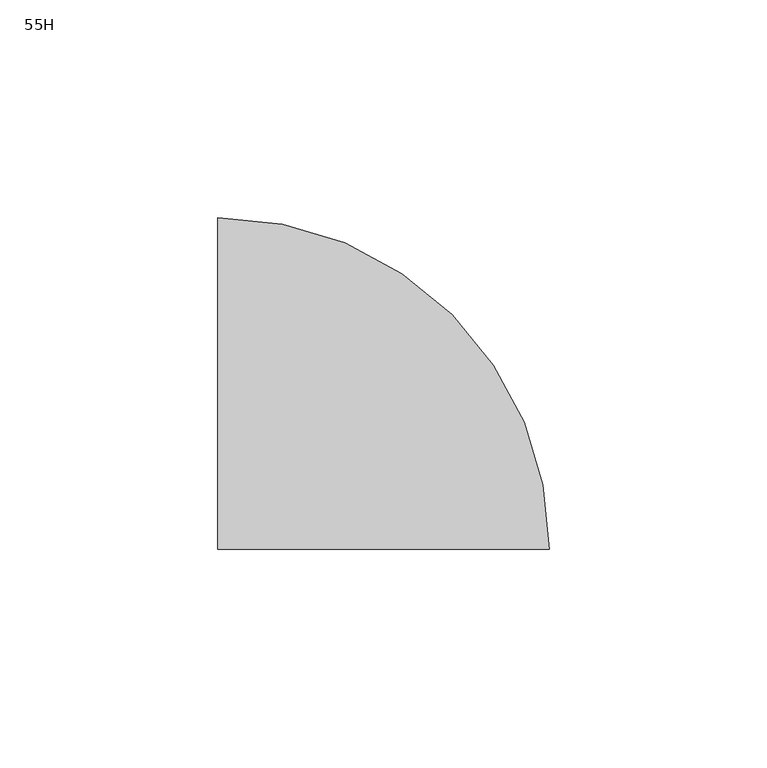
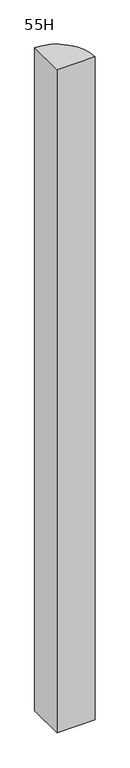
"""IFC4 building model written with IfcOpenShell, lengths in millimetres: furniture geometry, Steelcase - Montage - Junction - L Radius - Same-Height : 55H."""

from ifc_helpers import new_model, si_unit, point, frame, frame_2d, origin, place, context, project, spatial, polyline, circle_curve, trimmed, segment, composite_curve, outline, extrude, source, transform, mapped, element, save


def furniture_55h_7e80d0b0(model_context):
    return source(origin(), model_context, "Body", "SweptSolid", [
        extrude(outline(composite_curve([segment(trimmed(circle_curve(frame_2d((457.2, -38.1000006)), 76.2000006), [point((457.2, 38.1))], [point((533.4000006, -38.1000006))], False, "CARTESIAN"), True, "CONTINUOUS"), segment(polyline([(533.4000006, -38.1000006), (457.2, -38.1000006), (457.2, 38.1)]), True, "CONTINUOUS")], self_intersect=False)), frame((0.0, 0.0, 4.064), z_axis=(0.0, 0.0, 1.0), x_axis=(1.0, 0.0, 0.0)), (0.0, 0.0, 1.0), 1394.5235),
    ])


if __name__ == "__main__":
    model = new_model("IFC4")
    model_context = context("Model", 3, world=origin())
    ifc_project = project(units=[si_unit("LENGTHUNIT", "METRE", prefix="MILLI")], contexts=[model_context])
    site = spatial("IfcSite", under=ifc_project)
    building = spatial("IfcBuilding", under=site)
    placement = place(None, origin())
    furniture_55h_shape = furniture_55h_7e80d0b0(model_context)
    element("IfcFurniture", 1, ObjectType="Steelcase - Montage - Junction - L Radius - Same-Height : 55H", at=placement, inside=building, context=model_context, shape_type="MappedRepresentation", body=[
        mapped(furniture_55h_shape, transform((0.0, 0.0, 0.0), x_axis=(1.0, 0.0, 0.0), y_axis=(0.0, 1.0, 0.0), z_axis=(0.0, 0.0, 1.0))),
    ])
    save(model, "model.ifc")
